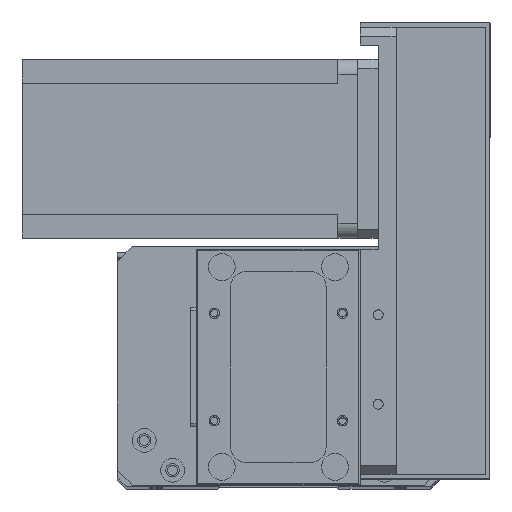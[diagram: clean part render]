
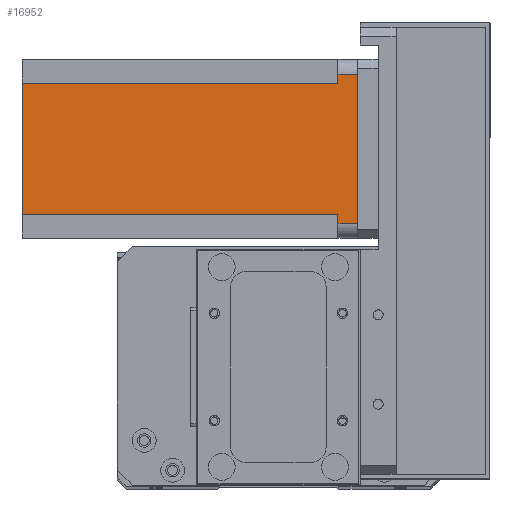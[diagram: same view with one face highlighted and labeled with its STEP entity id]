
A CAD part, top view. The second image highlights one B-rep face of the part: STEP entity #16952.
In plain terms, the highlighted planar face has unit normal (0, 0, 1) as drawn and (0, 1, 0) by its records, which use the part's own axes.
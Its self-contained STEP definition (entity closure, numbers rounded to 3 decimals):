
#955 = VECTOR ( 'NONE', #4231, 1000. ) ;
#1115 = CARTESIAN_POINT ( 'NONE',  ( 55., 60., -112.5 ) ) ;
#2347 = LINE ( 'NONE', #10767, #14956 ) ;
#3381 = DIRECTION ( 'NONE',  ( 0., 0., -1. ) ) ;
#3435 = VERTEX_POINT ( 'NONE', #8415 ) ;
#3507 = CARTESIAN_POINT ( 'NONE',  ( 5., 60., 0. ) ) ;
#3614 = LINE ( 'NONE', #27482, #25271 ) ;
#3993 = VECTOR ( 'NONE', #3381, 1000. ) ;
#4016 = LINE ( 'NONE', #23257, #21869 ) ;
#4124 = DIRECTION ( 'NONE',  ( -1., 0., 0. ) ) ;
#4231 = DIRECTION ( 'NONE',  ( -1., 0., 0. ) ) ;
#4252 = EDGE_LOOP ( 'NONE', ( #18614, #17546, #10554, #15551, #21791, #5593, #7010, #21615 ) ) ;
#4330 = CARTESIAN_POINT ( 'NONE',  ( 52., 60., -112.5 ) ) ;
#4643 = DIRECTION ( 'NONE',  ( 0., 0., 1. ) ) ;
#4722 = EDGE_CURVE ( 'NONE', #18204, #18442, #21158, .T. ) ;
#4935 = LINE ( 'NONE', #11823, #22085 ) ;
#5211 = DIRECTION ( 'NONE',  ( -1., 0., 0. ) ) ;
#5593 = ORIENTED_EDGE ( 'NONE', *, *, #10829, .F. ) ;
#5701 = CARTESIAN_POINT ( 'NONE',  ( 55., 60., -6.5 ) ) ;
#6945 = LINE ( 'NONE', #19846, #955 ) ;
#7010 = ORIENTED_EDGE ( 'NONE', *, *, #19204, .T. ) ;
#7820 = VERTEX_POINT ( 'NONE', #17288 ) ;
#8095 = VERTEX_POINT ( 'NONE', #27220 ) ;
#8415 = CARTESIAN_POINT ( 'NONE',  ( 8., 60., -6.5 ) ) ;
#9821 = VERTEX_POINT ( 'NONE', #18853 ) ;
#9866 = DIRECTION ( 'NONE',  ( 0., 0., -1. ) ) ;
#10554 = ORIENTED_EDGE ( 'NONE', *, *, #24420, .F. ) ;
#10767 = CARTESIAN_POINT ( 'NONE',  ( 8., 60., -6.5 ) ) ;
#10829 = EDGE_CURVE ( 'NONE', #3435, #7820, #4016, .T. ) ;
#11286 = CARTESIAN_POINT ( 'NONE',  ( 0., 60., -112.5 ) ) ;
#11583 = VERTEX_POINT ( 'NONE', #16940 ) ;
#11823 = CARTESIAN_POINT ( 'NONE',  ( 52., 60., -6.5 ) ) ;
#13140 = VECTOR ( 'NONE', #13287, 1000. ) ;
#13287 = DIRECTION ( 'NONE',  ( 0., 0., 1. ) ) ;
#14070 = DIRECTION ( 'NONE',  ( 1., 0., 0. ) ) ;
#14956 = VECTOR ( 'NONE', #4124, 1000. ) ;
#15551 = ORIENTED_EDGE ( 'NONE', *, *, #21107, .F. ) ;
#16634 = VERTEX_POINT ( 'NONE', #3507 ) ;
#16923 = VECTOR ( 'NONE', #5211, 1000. ) ;
#16940 = CARTESIAN_POINT ( 'NONE',  ( 5., 60., -6.5 ) ) ;
#16952 = ADVANCED_FACE ( 'NONE', ( #17277 ), #26891, .T. ) ;
#17277 = FACE_OUTER_BOUND ( 'NONE', #4252, .T. ) ;
#17288 = CARTESIAN_POINT ( 'NONE',  ( 8., 60., -112.5 ) ) ;
#17546 = ORIENTED_EDGE ( 'NONE', *, *, #4722, .T. ) ;
#17997 = DIRECTION ( 'NONE',  ( 0., 1., 0. ) ) ;
#18204 = VERTEX_POINT ( 'NONE', #24999 ) ;
#18442 = VERTEX_POINT ( 'NONE', #5701 ) ;
#18614 = ORIENTED_EDGE ( 'NONE', *, *, #22574, .F. ) ;
#18853 = CARTESIAN_POINT ( 'NONE',  ( 52., 60., -112.5 ) ) ;
#19204 = EDGE_CURVE ( 'NONE', #3435, #11583, #2347, .T. ) ;
#19244 = EDGE_CURVE ( 'NONE', #9821, #7820, #6945, .T. ) ;
#19846 = CARTESIAN_POINT ( 'NONE',  ( 0., 60., -112.5 ) ) ;
#20501 = LINE ( 'NONE', #4330, #13140 ) ;
#20842 = CARTESIAN_POINT ( 'NONE',  ( 0., 60., 0. ) ) ;
#21107 = EDGE_CURVE ( 'NONE', #9821, #8095, #20501, .T. ) ;
#21158 = LINE ( 'NONE', #1115, #3993 ) ;
#21615 = ORIENTED_EDGE ( 'NONE', *, *, #27089, .T. ) ;
#21791 = ORIENTED_EDGE ( 'NONE', *, *, #19244, .T. ) ;
#21869 = VECTOR ( 'NONE', #9866, 1000. ) ;
#22085 = VECTOR ( 'NONE', #14070, 1000. ) ;
#22191 = LINE ( 'NONE', #20842, #16923 ) ;
#22574 = EDGE_CURVE ( 'NONE', #18204, #16634, #22191, .T. ) ;
#23090 = AXIS2_PLACEMENT_3D ( 'NONE', #11286, #17997, #4643 ) ;
#23257 = CARTESIAN_POINT ( 'NONE',  ( 8., 60., -112.5 ) ) ;
#24420 = EDGE_CURVE ( 'NONE', #8095, #18442, #4935, .T. ) ;
#24999 = CARTESIAN_POINT ( 'NONE',  ( 55., 60., 0. ) ) ;
#25271 = VECTOR ( 'NONE', #27579, 1000. ) ;
#26891 = PLANE ( 'NONE',  #23090 ) ;
#27089 = EDGE_CURVE ( 'NONE', #11583, #16634, #3614, .T. ) ;
#27220 = CARTESIAN_POINT ( 'NONE',  ( 52., 60., -6.5 ) ) ;
#27482 = CARTESIAN_POINT ( 'NONE',  ( 5., 60., -112.5 ) ) ;
#27579 = DIRECTION ( 'NONE',  ( 0., 0., 1. ) ) ;
